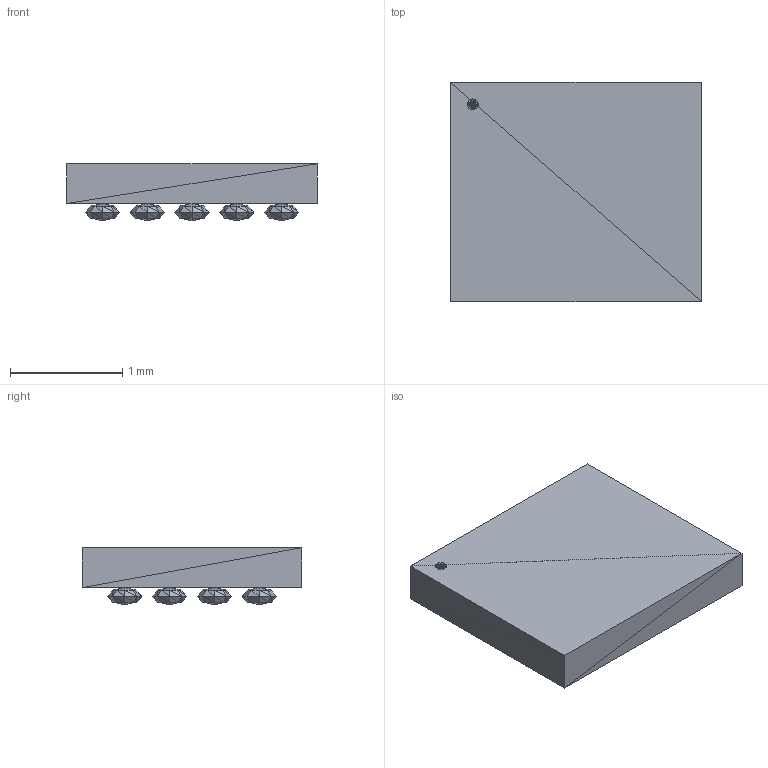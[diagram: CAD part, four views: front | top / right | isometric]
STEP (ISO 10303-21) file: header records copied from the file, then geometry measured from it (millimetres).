
FILE_DESCRIPTION(('STEP AP214'),'1');
FILE_NAME('21-100154B_N201B21','2018-11-15T15:14:04',(''),(''),'','','');
FILE_SCHEMA(('AUTOMOTIVE_DESIGN'));
Length unit declared in the file: millimetre
Products named in the file (1): product
Bounding box: 2.24 x 1.96 x 0.51 mm (x, y, z)
Surface area: 15.3 mm2 (no closed solid volume)
Topology: 0 solids, 1100 shells, 1100 faces, 3300 edges, 3300 vertices
Faces by surface type: plane 1100
Entity records: 36359 total; most frequent: CARTESIAN_POINT 7701, DIRECTION 5502, ORIENTED_EDGE 3300, EDGE_CURVE 3300, VERTEX_POINT 3300, LINE 3300, VECTOR 3300, AXIS2_PLACEMENT_3D 1101
